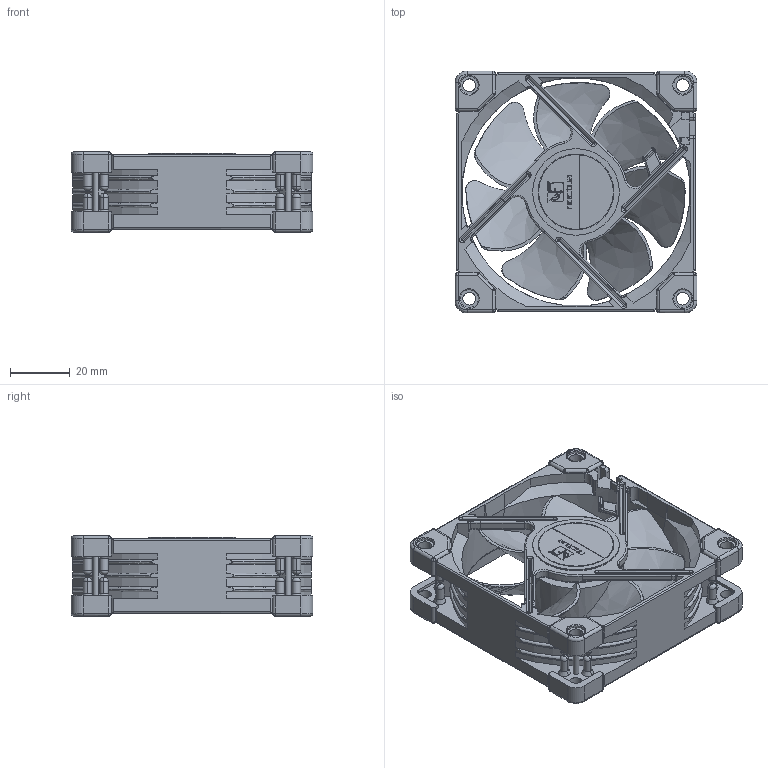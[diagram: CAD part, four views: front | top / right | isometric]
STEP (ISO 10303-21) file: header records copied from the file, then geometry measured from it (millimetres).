
FILE_DESCRIPTION(/* description */ ('140mm Desk Fan'),/* implementation_level */ '2;1');
FILE_NAME(/* name */ 'NF-A8_Public-CAD',/* time_stamp */ '2026-04-09T17:54:13+02:00',/* author */ ('Andreas'),/* organization */ ('Rascom'),/* preprocessor_version */ 'ST-DEVELOPER v18.102',/* originating_system */ 'Solid Edge',/* authorisation */ 'Unknown');
FILE_SCHEMA (('AUTOMOTIVE_DESIGN {1 0 10303 214 3 1 1}'));
Products named in the file (5): NF-A8_Public-CAD; NF-A8_impeller-public; NA-AVP5; NF-A8_frame-public-2; Fan-Label-D29mm-Regular
Assembly tree (11 placements, depth 2):
  NF-A8_Public-CAD
    NF-A8_impeller-public
    NA-AVP5  x8
    NF-A8_frame-public-2
    Fan-Label-D29mm-Regular
Bounding box: 81 x 81 x 27 mm (x, y, z)
Volume: 31656.7 mm3; surface area: 44501.6 mm2
Topology: 11 solids, 12 shells, 1728 faces, 4473 edges, 2785 vertices
Faces by surface type: cylinder 694, plane 516, torus 244, bspline 114, cone 88, sphere 72
Full cylindrical faces by diameter (mm): 25.4 x1, 27.9 x1, 29 x2, 29.9 x1, 76.532 x1
Entity records: 47771 total; most frequent: CARTESIAN_POINT 18150, ORIENTED_EDGE 6444, DIRECTION 5206, EDGE_CURVE 3222, VERTEX_POINT 2044, AXIS2_PLACEMENT_3D 1935, LINE 1336, VECTOR 1336
